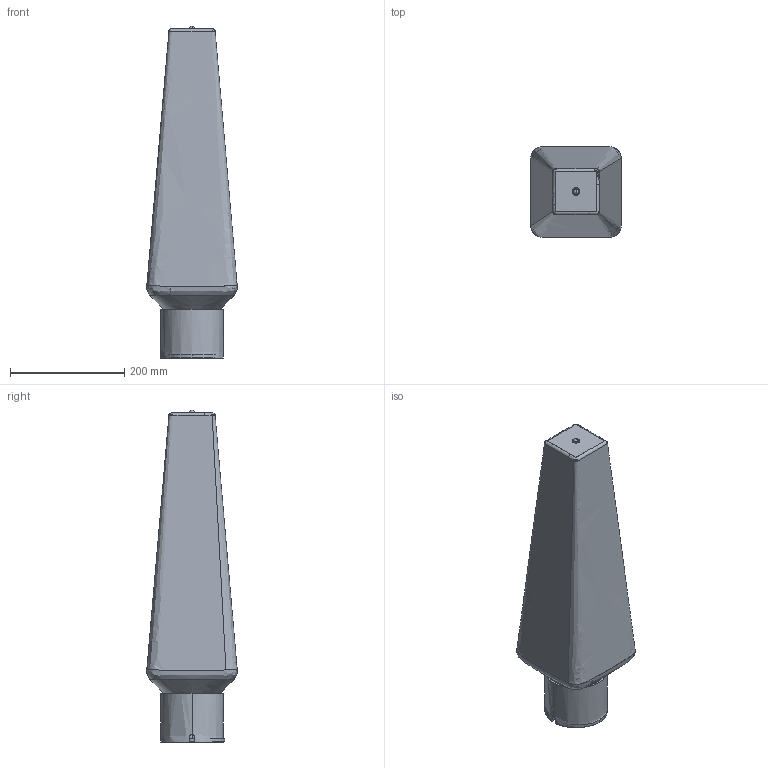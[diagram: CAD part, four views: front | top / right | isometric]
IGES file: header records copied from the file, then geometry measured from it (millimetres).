
Start section: SolidWorks IGES file using analytic representation for surfaces
Global section: file name: C:\Users\andre\Documents\PRJ\MM LAMPADARI\01 PRODOTTI MM LAMPADARI\7426 BABILONIA\DWG PDF DXF  STEP\BABILONIA.IGS; native system: SolidWorks 2020; preprocessor: SolidWorks 2020; author: andre; date: 240429.103556; units: millimetre
Bounding box: 158.55 x 158.54 x 580.89 mm (x, y, z)
Surface area: 603505.2 mm2 (no closed solid volume)
Topology: 0 solids, 0 shells, 703 faces, 9325 edges, 9307 vertices
Faces by surface type: bspline 406, revolution 297
